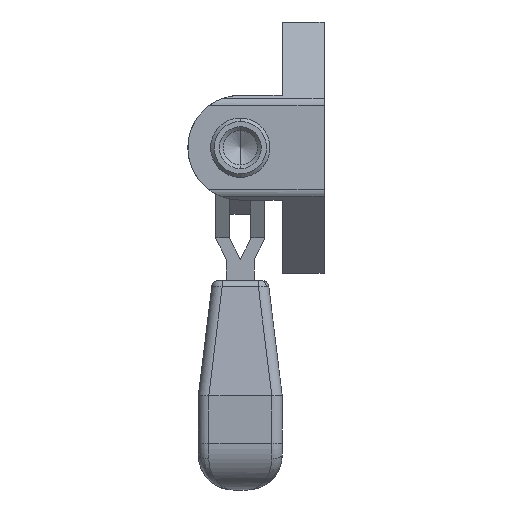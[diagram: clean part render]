
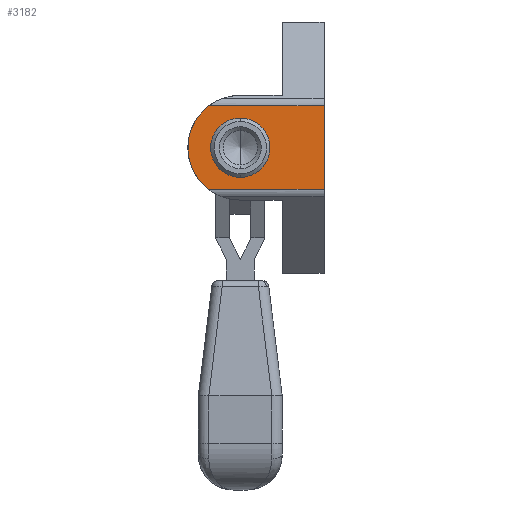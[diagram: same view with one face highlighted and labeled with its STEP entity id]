
A CAD part, left-side view. The second image highlights one B-rep face of the part: STEP entity #3182.
In plain terms, the highlighted planar face has unit normal (-1, 0, 0).
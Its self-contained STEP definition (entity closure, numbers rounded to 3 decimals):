
#94 = DIRECTION ( 'NONE',  ( -1., 0., 0. ) ) ;
#172 = VERTEX_POINT ( 'NONE', #2854 ) ;
#345 = VECTOR ( 'NONE', #6100, 1000. ) ;
#696 = VECTOR ( 'NONE', #5000, 1000. ) ;
#813 = LINE ( 'NONE', #5095, #4107 ) ;
#848 = VERTEX_POINT ( 'NONE', #7311 ) ;
#859 = DIRECTION ( 'NONE',  ( 1., 0., 0. ) ) ;
#873 = AXIS2_PLACEMENT_3D ( 'NONE', #5868, #2842, #4667 ) ;
#920 = LINE ( 'NONE', #5756, #696 ) ;
#1068 = CARTESIAN_POINT ( 'NONE',  ( 0., 12., 0. ) ) ;
#1303 = CARTESIAN_POINT ( 'NONE',  ( 0., 12., 0. ) ) ;
#1381 = VERTEX_POINT ( 'NONE', #2006 ) ;
#1446 = EDGE_CURVE ( 'NONE', #1381, #2900, #920, .T. ) ;
#1645 = AXIS2_PLACEMENT_3D ( 'NONE', #3913, #859, #5100 ) ;
#1889 = EDGE_LOOP ( 'NONE', ( #5813, #6006 ) ) ;
#1925 = CARTESIAN_POINT ( 'NONE',  ( 0., 19.5, 5.979 ) ) ;
#2006 = CARTESIAN_POINT ( 'NONE',  ( 0., 0., -5.979 ) ) ;
#2021 = CIRCLE ( 'NONE', #4055, 4.25 ) ;
#2401 = PLANE ( 'NONE',  #1645 ) ;
#2513 = DIRECTION ( 'NONE',  ( 0., 0., 1. ) ) ;
#2610 = CIRCLE ( 'NONE', #3114, 4.25 ) ;
#2827 = CARTESIAN_POINT ( 'NONE',  ( 0., 16.528, 5.979 ) ) ;
#2842 = DIRECTION ( 'NONE',  ( 1., 0., 0. ) ) ;
#2854 = CARTESIAN_POINT ( 'NONE',  ( 0., 12., -4.25 ) ) ;
#2900 = VERTEX_POINT ( 'NONE', #4006 ) ;
#2943 = ORIENTED_EDGE ( 'NONE', *, *, #6800, .F. ) ;
#3114 = AXIS2_PLACEMENT_3D ( 'NONE', #1303, #94, #2513 ) ;
#3182 = ADVANCED_FACE ( 'NONE', ( #7871, #7320 ), #2401, .F. ) ;
#3231 = ORIENTED_EDGE ( 'NONE', *, *, #4884, .F. ) ;
#3427 = VERTEX_POINT ( 'NONE', #2827 ) ;
#3682 = LINE ( 'NONE', #1925, #345 ) ;
#3908 = DIRECTION ( 'NONE',  ( 0., 1., 0. ) ) ;
#3913 = CARTESIAN_POINT ( 'NONE',  ( 0., 19.5, -5.979 ) ) ;
#4006 = CARTESIAN_POINT ( 'NONE',  ( 0., 0., 5.979 ) ) ;
#4055 = AXIS2_PLACEMENT_3D ( 'NONE', #1068, #4105, #6538 ) ;
#4105 = DIRECTION ( 'NONE',  ( -1., 0., 0. ) ) ;
#4107 = VECTOR ( 'NONE', #3908, 1000. ) ;
#4494 = VERTEX_POINT ( 'NONE', #7560 ) ;
#4615 = EDGE_CURVE ( 'NONE', #172, #848, #2021, .T. ) ;
#4630 = EDGE_LOOP ( 'NONE', ( #6697, #3231, #7289, #2943 ) ) ;
#4667 = DIRECTION ( 'NONE',  ( 0., 0., 1. ) ) ;
#4884 = EDGE_CURVE ( 'NONE', #1381, #4494, #813, .T. ) ;
#5000 = DIRECTION ( 'NONE',  ( 0., 0., 1. ) ) ;
#5095 = CARTESIAN_POINT ( 'NONE',  ( 0., 19.5, -5.979 ) ) ;
#5100 = DIRECTION ( 'NONE',  ( 0., 0., -1. ) ) ;
#5437 = CIRCLE ( 'NONE', #873, 7.5 ) ;
#5756 = CARTESIAN_POINT ( 'NONE',  ( 0., 0., -5.979 ) ) ;
#5813 = ORIENTED_EDGE ( 'NONE', *, *, #6041, .F. ) ;
#5868 = CARTESIAN_POINT ( 'NONE',  ( 0., 12., 0. ) ) ;
#6006 = ORIENTED_EDGE ( 'NONE', *, *, #4615, .F. ) ;
#6041 = EDGE_CURVE ( 'NONE', #848, #172, #2610, .T. ) ;
#6100 = DIRECTION ( 'NONE',  ( 0., -1., 0. ) ) ;
#6538 = DIRECTION ( 'NONE',  ( 0., 0., 1. ) ) ;
#6697 = ORIENTED_EDGE ( 'NONE', *, *, #7589, .F. ) ;
#6800 = EDGE_CURVE ( 'NONE', #3427, #2900, #3682, .T. ) ;
#7289 = ORIENTED_EDGE ( 'NONE', *, *, #1446, .T. ) ;
#7311 = CARTESIAN_POINT ( 'NONE',  ( 0., 12., 4.25 ) ) ;
#7320 = FACE_BOUND ( 'NONE', #1889, .T. ) ;
#7560 = CARTESIAN_POINT ( 'NONE',  ( 0., 16.528, -5.979 ) ) ;
#7589 = EDGE_CURVE ( 'NONE', #4494, #3427, #5437, .T. ) ;
#7871 = FACE_OUTER_BOUND ( 'NONE', #4630, .T. ) ;
